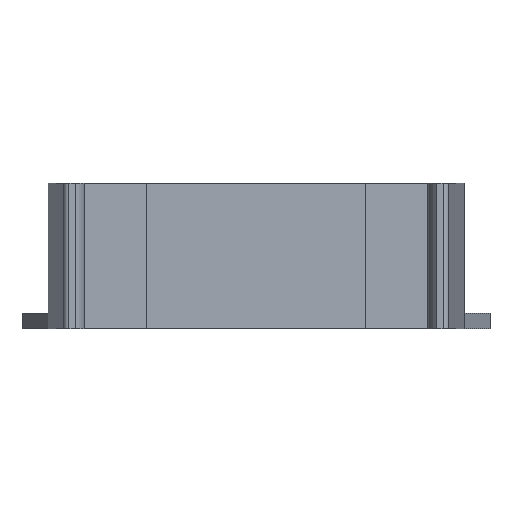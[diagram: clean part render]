
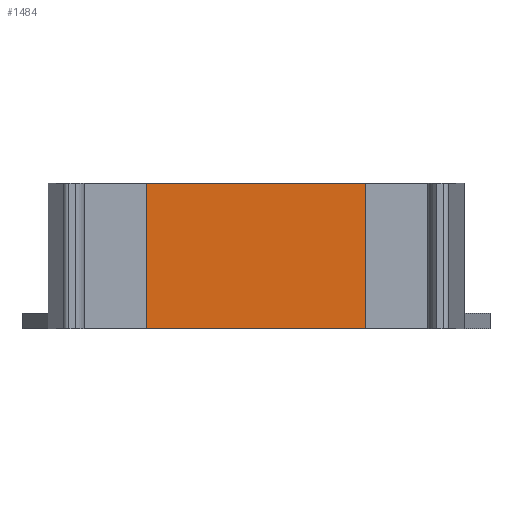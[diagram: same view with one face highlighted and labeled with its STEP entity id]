
A CAD part, front view. The second image highlights one B-rep face of the part: STEP entity #1484.
In plain terms, the highlighted planar face has unit normal (0, -1, 0).
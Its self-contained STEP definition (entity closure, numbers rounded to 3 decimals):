
#60=PLANE('',#1615);
#132=FACE_OUTER_BOUND('',#212,.T.);
#212=EDGE_LOOP('',(#1270,#1271,#1272,#1273));
#297=LINE('',#2205,#475);
#377=LINE('',#2395,#555);
#378=LINE('',#2398,#556);
#379=LINE('',#2399,#557);
#475=VECTOR('',#1760,10.);
#555=VECTOR('',#1954,10.);
#556=VECTOR('',#1957,10.);
#557=VECTOR('',#1958,10.);
#697=VERTEX_POINT('',#2202);
#698=VERTEX_POINT('',#2204);
#751=VERTEX_POINT('',#2393);
#752=VERTEX_POINT('',#2397);
#848=EDGE_CURVE('',#697,#698,#297,.T.);
#943=EDGE_CURVE('',#751,#698,#377,.T.);
#944=EDGE_CURVE('',#752,#751,#378,.T.);
#945=EDGE_CURVE('',#752,#697,#379,.T.);
#1270=ORIENTED_EDGE('',*,*,#944,.T.);
#1271=ORIENTED_EDGE('',*,*,#943,.T.);
#1272=ORIENTED_EDGE('',*,*,#848,.F.);
#1273=ORIENTED_EDGE('',*,*,#945,.F.);
#1484=ADVANCED_FACE('',(#132),#60,.T.);
#1615=AXIS2_PLACEMENT_3D('',#2396,#1955,#1956);
#1760=DIRECTION('',(1.,0.,0.));
#1954=DIRECTION('',(0.,0.,1.));
#1955=DIRECTION('center_axis',(0.,-1.,0.));
#1956=DIRECTION('ref_axis',(1.,0.,0.));
#1957=DIRECTION('',(1.,0.,0.));
#1958=DIRECTION('',(0.,0.,1.));
#2202=CARTESIAN_POINT('',(-12.75,-6.,14.));
#2204=CARTESIAN_POINT('',(12.75,-6.,14.));
#2205=CARTESIAN_POINT('',(-12.75,-6.,14.));
#2393=CARTESIAN_POINT('',(12.75,-6.,0.));
#2395=CARTESIAN_POINT('',(12.75,-6.,0.));
#2396=CARTESIAN_POINT('Origin',(-12.75,-6.,0.));
#2397=CARTESIAN_POINT('',(-12.75,-6.,0.));
#2398=CARTESIAN_POINT('',(-12.75,-6.,0.));
#2399=CARTESIAN_POINT('',(-12.75,-6.,0.));
